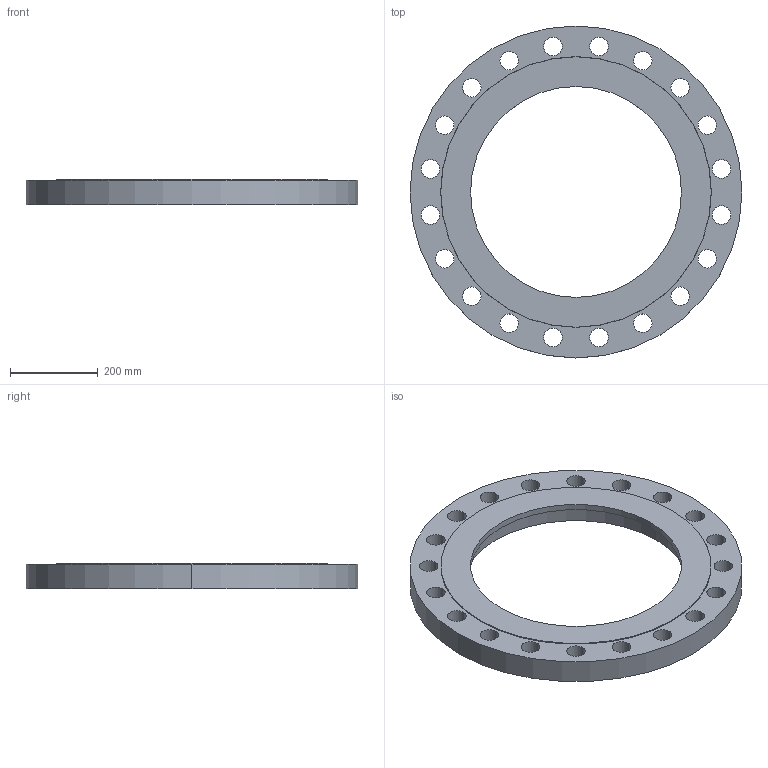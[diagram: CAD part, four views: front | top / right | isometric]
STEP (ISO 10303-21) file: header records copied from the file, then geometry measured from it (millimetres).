
FILE_DESCRIPTION (( 'STEP AP214' ), '1' );
FILE_NAME ('PN40 DN500 Type 05 - Socket (Type B) - Not in Standard.STEP', '2018-12-29T01:33:25', ( '' ), ( '' ), 'SwSTEP 2.0', 'SolidWorks 2019', '' );
FILE_SCHEMA (( 'AUTOMOTIVE_DESIGN' ));
Length unit declared in the file: millimetre
Products named in the file (1): PN40 DN500 Type 05 - Socket (Type B) - Not in Standard
Bounding box: 755 x 755 x 57 mm (x, y, z)
Volume: 12266463.5 mm3; surface area: 847942.7 mm2
Topology: 1 solids, 1 shells, 52 faces, 144 edges, 96 vertices
Faces by surface type: cylinder 46, plane 4, cone 2
Entity records: 1842 total; most frequent: DIRECTION 346, CARTESIAN_POINT 293, ORIENTED_EDGE 288, AXIS2_PLACEMENT_3D 149, EDGE_CURVE 144, CIRCLE 96, VERTEX_POINT 96, EDGE_LOOP 96
